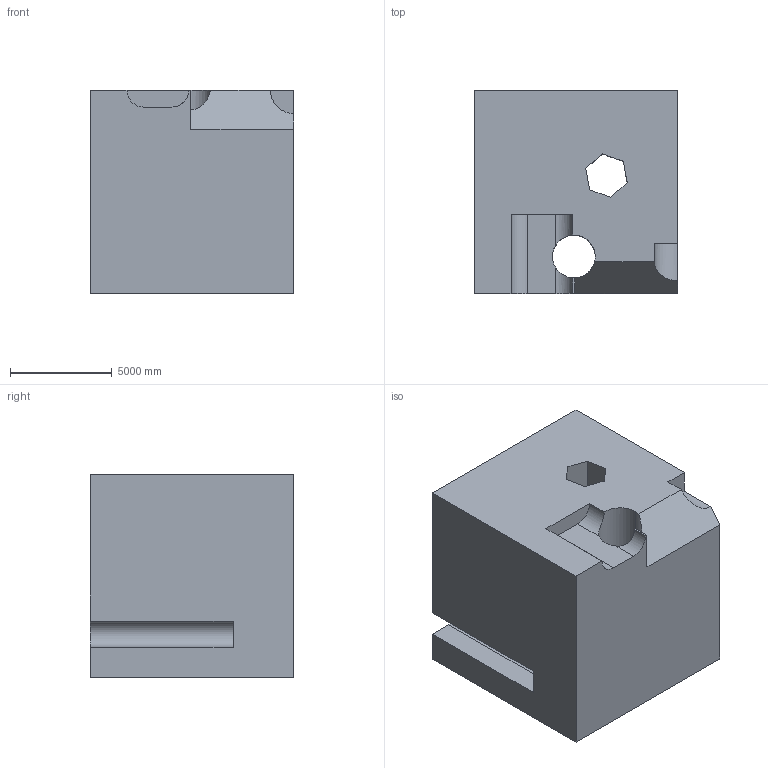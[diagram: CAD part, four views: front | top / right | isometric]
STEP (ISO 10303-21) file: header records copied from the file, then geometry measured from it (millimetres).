
FILE_DESCRIPTION (( 'STEP AP203' ), '1' );
FILE_NAME ('1857.STEP', '2022-08-19T13:36:26', ( 'user' ), ( '' ), 'SwSTEP 2.0', 'SolidWorks 2021', '' );
FILE_SCHEMA (( 'CONFIG_CONTROL_DESIGN' ));
Length unit declared in the file: centimetre
Products named in the file (1): 1857
Bounding box: 10000 x 10000 x 10000 mm (x, y, z)
Volume: 876090205242.6 mm3; surface area: 782352665.6 mm2
Topology: 1 solids, 1 shells, 43 faces, 132 edges, 88 vertices
Faces by surface type: plane 34, cylinder 9
Entity records: 1692 total; most frequent: CARTESIAN_POINT 419, ORIENTED_EDGE 264, DIRECTION 230, EDGE_CURVE 132, VECTOR 108, LINE 108, VERTEX_POINT 88, AXIS2_PLACEMENT_3D 61
